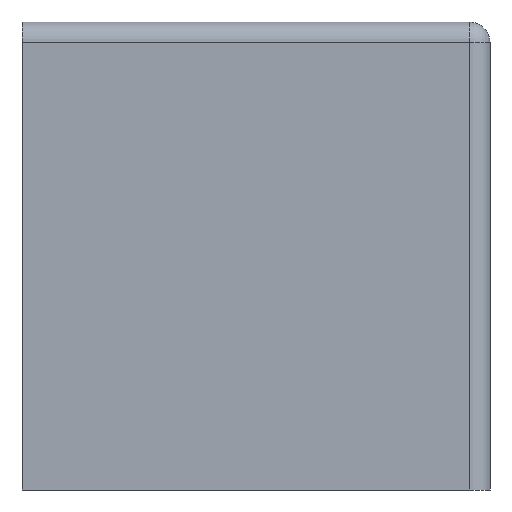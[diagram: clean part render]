
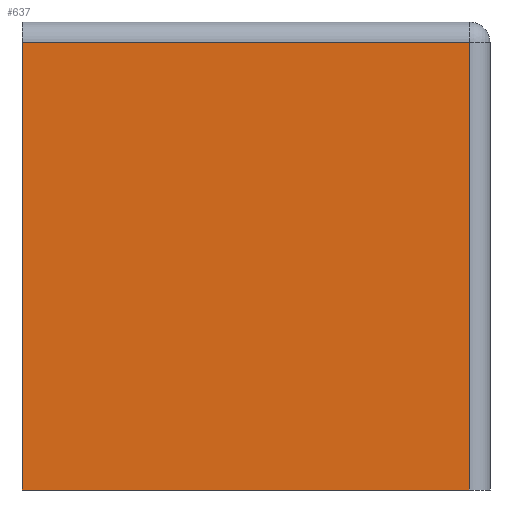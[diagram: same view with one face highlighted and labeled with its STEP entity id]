
A CAD part, left-side view. The second image highlights one B-rep face of the part: STEP entity #637.
In plain terms, the highlighted planar face has unit normal (-1, 0, 0).
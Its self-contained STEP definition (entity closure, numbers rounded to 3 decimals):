
#25 = EDGE_LOOP ( 'NONE', ( #358, #594, #245, #781 ) ) ;
#39 = EDGE_CURVE ( 'NONE', #758, #309, #740, .T. ) ;
#43 = PLANE ( 'NONE',  #566 ) ;
#52 = EDGE_CURVE ( 'NONE', #407, #758, #231, .T. ) ;
#92 = CARTESIAN_POINT ( 'NONE',  ( -28.065, 25.887, 43. ) ) ;
#120 = DIRECTION ( 'NONE',  ( 0., 1., 0. ) ) ;
#131 = VECTOR ( 'NONE', #930, 1000. ) ;
#133 = CARTESIAN_POINT ( 'NONE',  ( -28.065, -17.113, 45. ) ) ;
#138 = EDGE_CURVE ( 'NONE', #1017, #407, #1038, .T. ) ;
#183 = FACE_OUTER_BOUND ( 'NONE', #25, .T. ) ;
#222 = DIRECTION ( 'NONE',  ( 0., -1., 0. ) ) ;
#231 = LINE ( 'NONE', #602, #835 ) ;
#245 = ORIENTED_EDGE ( 'NONE', *, *, #361, .T. ) ;
#260 = CARTESIAN_POINT ( 'NONE',  ( -28.065, 25.887, 43. ) ) ;
#307 = CARTESIAN_POINT ( 'NONE',  ( -28.065, -17.113, 0. ) ) ;
#309 = VERTEX_POINT ( 'NONE', #636 ) ;
#358 = ORIENTED_EDGE ( 'NONE', *, *, #52, .T. ) ;
#361 = EDGE_CURVE ( 'NONE', #309, #1017, #1031, .T. ) ;
#407 = VERTEX_POINT ( 'NONE', #668 ) ;
#436 = CARTESIAN_POINT ( 'NONE',  ( -28.065, 25.887, 45. ) ) ;
#445 = CARTESIAN_POINT ( 'NONE',  ( -28.065, 25.887, 45. ) ) ;
#493 = DIRECTION ( 'NONE',  ( 0., 1., 0. ) ) ;
#566 = AXIS2_PLACEMENT_3D ( 'NONE', #445, #603, #120 ) ;
#594 = ORIENTED_EDGE ( 'NONE', *, *, #39, .T. ) ;
#602 = CARTESIAN_POINT ( 'NONE',  ( -28.065, 25.887, 0. ) ) ;
#603 = DIRECTION ( 'NONE',  ( 1., 0., 0. ) ) ;
#607 = VECTOR ( 'NONE', #767, 1000. ) ;
#636 = CARTESIAN_POINT ( 'NONE',  ( -28.065, -17.113, 43. ) ) ;
#637 = ADVANCED_FACE ( 'NONE', ( #183 ), #43, .F. ) ;
#668 = CARTESIAN_POINT ( 'NONE',  ( -28.065, 25.887, 0. ) ) ;
#740 = LINE ( 'NONE', #133, #131 ) ;
#758 = VERTEX_POINT ( 'NONE', #307 ) ;
#767 = DIRECTION ( 'NONE',  ( 0., 0., -1. ) ) ;
#781 = ORIENTED_EDGE ( 'NONE', *, *, #138, .T. ) ;
#802 = VECTOR ( 'NONE', #493, 1000. ) ;
#835 = VECTOR ( 'NONE', #222, 1000. ) ;
#930 = DIRECTION ( 'NONE',  ( 0., 0., 1. ) ) ;
#1017 = VERTEX_POINT ( 'NONE', #260 ) ;
#1031 = LINE ( 'NONE', #92, #802 ) ;
#1038 = LINE ( 'NONE', #436, #607 ) ;
